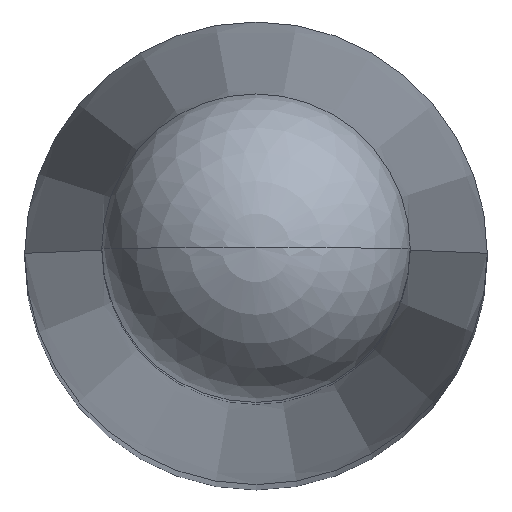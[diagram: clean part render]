
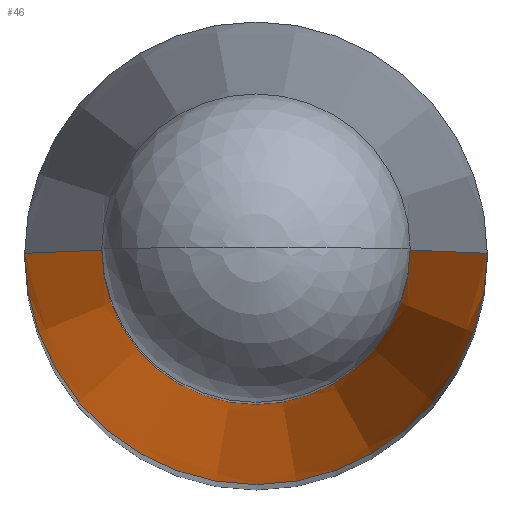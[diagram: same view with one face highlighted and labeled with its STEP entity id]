
A CAD part, top view. The second image highlights one B-rep face of the part: STEP entity #46.
In plain terms, the highlighted conical face has half-angle 2.386 degrees and reference radius 1.5 mm.
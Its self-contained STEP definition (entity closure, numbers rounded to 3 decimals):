
#46=ADVANCED_FACE('',(#88),#89,.T.);
#88=FACE_OUTER_BOUND('',#123,.T.);
#89=CONICAL_SURFACE('',#124,1.5,0.042);
#123=EDGE_LOOP('',(#180,#181,#182,#183));
#124=AXIS2_PLACEMENT_3D('',#184,#185,#186);
#180=ORIENTED_EDGE('',*,*,#208,.T.);
#181=ORIENTED_EDGE('',*,*,#219,.T.);
#182=ORIENTED_EDGE('',*,*,#209,.T.);
#183=ORIENTED_EDGE('',*,*,#223,.T.);
#184=CARTESIAN_POINT('',(0.0,0.0,76.0));
#185=DIRECTION('',(-0.0,-0.0,-1.0));
#186=DIRECTION('',(1.0,0.0,0.0));
#208=EDGE_CURVE('',#230,#238,#239,.T.);
#209=EDGE_CURVE('',#240,#234,#241,.T.);
#219=EDGE_CURVE('',#238,#240,#254,.T.);
#223=EDGE_CURVE('',#234,#230,#258,.T.);
#230=VERTEX_POINT('',#265);
#234=VERTEX_POINT('',#270);
#238=VERTEX_POINT('',#275);
#239=LINE('',#276,#277);
#240=VERTEX_POINT('',#278);
#241=LINE('',#279,#280);
#254=CIRCLE('',#295,2.0);
#258=CIRCLE('',#299,3.0);
#265=CARTESIAN_POINT('',(3.0,0.0,40.0));
#270=CARTESIAN_POINT('',(-3.0,0.,40.0));
#275=CARTESIAN_POINT('',(2.0,0.,64.0));
#276=CARTESIAN_POINT('',(1.5,0.,76.0));
#277=VECTOR('',#312,1.0);
#278=CARTESIAN_POINT('',(-2.0,0.,64.0));
#279=CARTESIAN_POINT('',(-1.5,0.,76.0));
#280=VECTOR('',#313,1.0);
#295=AXIS2_PLACEMENT_3D('',#331,#332,#333);
#299=AXIS2_PLACEMENT_3D('',#334,#335,#336);
#312=DIRECTION('',(-0.042,0.,0.999));
#313=DIRECTION('',(-0.042,0.,-0.999));
#331=CARTESIAN_POINT('',(0.0,0.0,64.0));
#332=DIRECTION('',(0.0,0.0,-1.0));
#333=DIRECTION('',(1.0,0.0,0.0));
#334=CARTESIAN_POINT('',(0.0,0.0,40.0));
#335=DIRECTION('',(0.0,0.0,1.0));
#336=DIRECTION('',(1.0,0.0,0.0));
